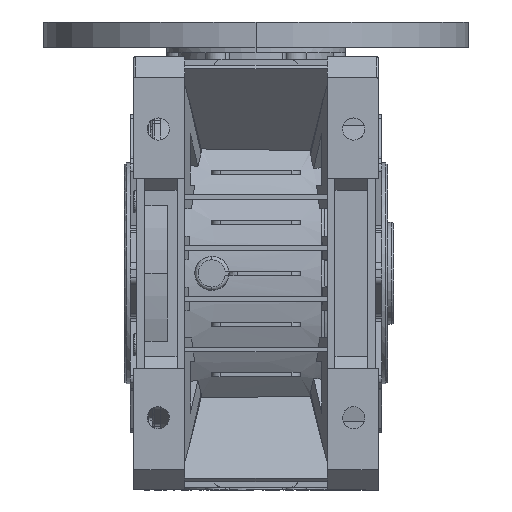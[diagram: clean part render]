
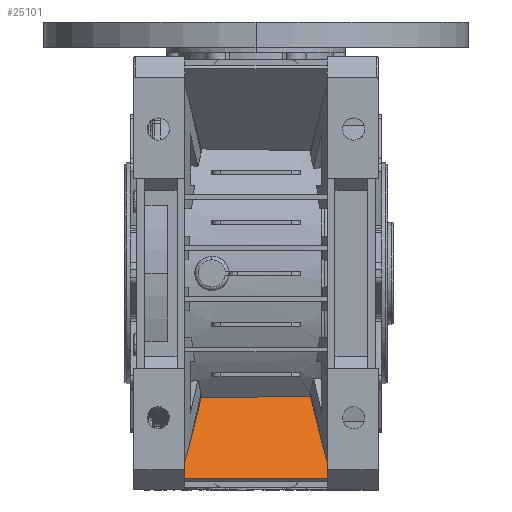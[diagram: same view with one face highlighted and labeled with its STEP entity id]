
A CAD part, front view. The second image highlights one B-rep face of the part: STEP entity #25101.
In plain terms, the highlighted planar face has unit normal (0, -0.707, 0.707).
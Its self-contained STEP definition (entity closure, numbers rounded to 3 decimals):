
#21259 = VERTEX_POINT ( 'NONE', #24698 ) ;
#21261 = EDGE_CURVE ( 'NONE', #21259, #21262, #24733, .T. ) ;
#21262 = VERTEX_POINT ( 'NONE', #24732 ) ;
#24698 = CARTESIAN_POINT ( 'NONE',  ( -32.243, -185.406, -73.285 ) ) ;
#24728 = CARTESIAN_POINT ( 'NONE',  ( 31.989, -184.375, -72.254 ) ) ;
#24729 = CARTESIAN_POINT ( 'NONE',  ( 10.578, -184.719, -72.597 ) ) ;
#24730 = CARTESIAN_POINT ( 'NONE',  ( -10.833, -185.062, -72.941 ) ) ;
#24731 = CARTESIAN_POINT ( 'NONE',  ( -32.243, -185.406, -73.285 ) ) ;
#24732 = CARTESIAN_POINT ( 'NONE',  ( 31.989, -184.375, -72.254 ) ) ;
#24733 = B_SPLINE_CURVE_WITH_KNOTS ( 'NONE', 3,
 ( #24731, #24730, #24729, #24728 ),
 .UNSPECIFIED., .F., .F.,
 ( 4, 4 ),
 ( 0., 1. ),
 .UNSPECIFIED. ) ;
#25060 = VERTEX_POINT ( 'NONE', #38927 ) ;
#25061 = ORIENTED_EDGE ( 'NONE', *, *, #25062, .T. ) ;
#25062 = EDGE_CURVE ( 'NONE', #25060, #101634, #38890, .T. ) ;
#25063 = ORIENTED_EDGE ( 'NONE', *, *, #101633, .T. ) ;
#25064 = ORIENTED_EDGE ( 'NONE', *, *, #25336, .T. ) ;
#25065 = ORIENTED_EDGE ( 'NONE', *, *, #25066, .T. ) ;
#25066 = EDGE_CURVE ( 'NONE', #25334, #25098, #38882, .T. ) ;
#25067 = ORIENTED_EDGE ( 'NONE', *, *, #25099, .T. ) ;
#25068 = ORIENTED_EDGE ( 'NONE', *, *, #21261, .F. ) ;
#25091 = ORIENTED_EDGE ( 'NONE', *, *, #25313, .T. ) ;
#25095 = VERTEX_POINT ( 'NONE', #39227 ) ;
#25098 = VERTEX_POINT ( 'NONE', #39226 ) ;
#25099 = EDGE_CURVE ( 'NONE', #25098, #21262, #39218, .T. ) ;
#25101 = ADVANCED_FACE ( 'NONE', ( #39213 ), #39210, .T. ) ;
#25174 = EDGE_CURVE ( 'NONE', #25095, #25220, #39596, .T. ) ;
#25175 = ORIENTED_EDGE ( 'NONE', *, *, #25236, .T. ) ;
#25176 = ORIENTED_EDGE ( 'NONE', *, *, #25177, .T. ) ;
#25177 = EDGE_CURVE ( 'NONE', #25232, #25060, #39587, .T. ) ;
#25220 = VERTEX_POINT ( 'NONE', #39658 ) ;
#25232 = VERTEX_POINT ( 'NONE', #39740 ) ;
#25236 = EDGE_CURVE ( 'NONE', #25220, #25232, #39717, .T. ) ;
#25312 = EDGE_LOOP ( 'NONE', ( #25091, #25314, #25175, #25176, #25061, #25063, #25064, #25065, #25067, #25068 ) ) ;
#25313 = EDGE_CURVE ( 'NONE', #21259, #25095, #40355, .T. ) ;
#25314 = ORIENTED_EDGE ( 'NONE', *, *, #25174, .T. ) ;
#25334 = VERTEX_POINT ( 'NONE', #40433 ) ;
#25336 = EDGE_CURVE ( 'NONE', #101628, #25334, #40422, .T. ) ;
#38874 = DIRECTION ( 'NONE',  ( -0.106, -0.703, -0.703 ) ) ;
#38877 = VECTOR ( 'NONE', #38874, 1000. ) ;
#38880 = CARTESIAN_POINT ( 'NONE',  ( 39.574, -214.446, -102.325 ) ) ;
#38882 = LINE ( 'NONE', #38880, #38877 ) ;
#38884 = DIRECTION ( 'NONE',  ( 1., 0., 0. ) ) ;
#38886 = VECTOR ( 'NONE', #38884, 1000. ) ;
#38888 = CARTESIAN_POINT ( 'NONE',  ( -42., -232.561, -120.439 ) ) ;
#38890 = LINE ( 'NONE', #38888, #38886 ) ;
#38927 = CARTESIAN_POINT ( 'NONE',  ( -42., -232.561, -120.439 ) ) ;
#39199 = DIRECTION ( 'NONE',  ( 0., -0.707, -0.707 ) ) ;
#39201 = DIRECTION ( 'NONE',  ( 0., -0.707, 0.707 ) ) ;
#39202 = CARTESIAN_POINT ( 'NONE',  ( -42., -232.561, -120.439 ) ) ;
#39208 = AXIS2_PLACEMENT_3D ( 'NONE', #39202, #39201, #39199 ) ;
#39210 = PLANE ( 'NONE',  #39208 ) ;
#39213 = FACE_OUTER_BOUND ( 'NONE', #25312, .T. ) ;
#39215 = DIRECTION ( 'NONE',  ( -0.172, 0.697, 0.697 ) ) ;
#39216 = VECTOR ( 'NONE', #39215, 1000. ) ;
#39217 = CARTESIAN_POINT ( 'NONE',  ( 39.514, -214.843, -102.722 ) ) ;
#39218 = LINE ( 'NONE', #39217, #39216 ) ;
#39226 = CARTESIAN_POINT ( 'NONE',  ( 39.514, -214.843, -102.722 ) ) ;
#39227 = CARTESIAN_POINT ( 'NONE',  ( -39.514, -214.843, -102.722 ) ) ;
#39582 = DIRECTION ( 'NONE',  ( 0., -0.707, -0.707 ) ) ;
#39583 = VECTOR ( 'NONE', #39582, 1000. ) ;
#39585 = CARTESIAN_POINT ( 'NONE',  ( -42., -232.561, -120.439 ) ) ;
#39587 = LINE ( 'NONE', #39585, #39583 ) ;
#39589 = DIRECTION ( 'NONE',  ( -0.106, 0.703, 0.703 ) ) ;
#39591 = VECTOR ( 'NONE', #39589, 1000. ) ;
#39592 = CARTESIAN_POINT ( 'NONE',  ( -39.514, -214.843, -102.722 ) ) ;
#39596 = LINE ( 'NONE', #39592, #39591 ) ;
#39658 = CARTESIAN_POINT ( 'NONE',  ( -39.574, -214.446, -102.325 ) ) ;
#39712 = DIRECTION ( 'NONE',  ( -0.186, -0.695, -0.695 ) ) ;
#39713 = VECTOR ( 'NONE', #39712, 1000. ) ;
#39715 = CARTESIAN_POINT ( 'NONE',  ( -39.574, -214.446, -102.325 ) ) ;
#39717 = LINE ( 'NONE', #39715, #39713 ) ;
#39740 = CARTESIAN_POINT ( 'NONE',  ( -42., -223.5, -111.379 ) ) ;
#40348 = DIRECTION ( 'NONE',  ( -0.172, -0.697, -0.697 ) ) ;
#40350 = VECTOR ( 'NONE', #40348, 1000. ) ;
#40353 = CARTESIAN_POINT ( 'NONE',  ( -32.243, -185.406, -73.285 ) ) ;
#40355 = LINE ( 'NONE', #40353, #40350 ) ;
#40417 = DIRECTION ( 'NONE',  ( -0.186, 0.695, 0.695 ) ) ;
#40418 = VECTOR ( 'NONE', #40417, 1000. ) ;
#40420 = CARTESIAN_POINT ( 'NONE',  ( 42., -223.5, -111.379 ) ) ;
#40422 = LINE ( 'NONE', #40420, #40418 ) ;
#40433 = CARTESIAN_POINT ( 'NONE',  ( 39.574, -214.446, -102.325 ) ) ;
#51450 = CARTESIAN_POINT ( 'NONE',  ( 42., -232.561, -120.439 ) ) ;
#51452 = DIRECTION ( 'NONE',  ( 0., 0.707, 0.707 ) ) ;
#51454 = VECTOR ( 'NONE', #51452, 1000. ) ;
#51456 = CARTESIAN_POINT ( 'NONE',  ( 42., -232.561, -120.439 ) ) ;
#51457 = LINE ( 'NONE', #51456, #51454 ) ;
#51466 = CARTESIAN_POINT ( 'NONE',  ( 42., -223.5, -111.379 ) ) ;
#101628 = VERTEX_POINT ( 'NONE', #51466 ) ;
#101633 = EDGE_CURVE ( 'NONE', #101634, #101628, #51457, .T. ) ;
#101634 = VERTEX_POINT ( 'NONE', #51450 ) ;
